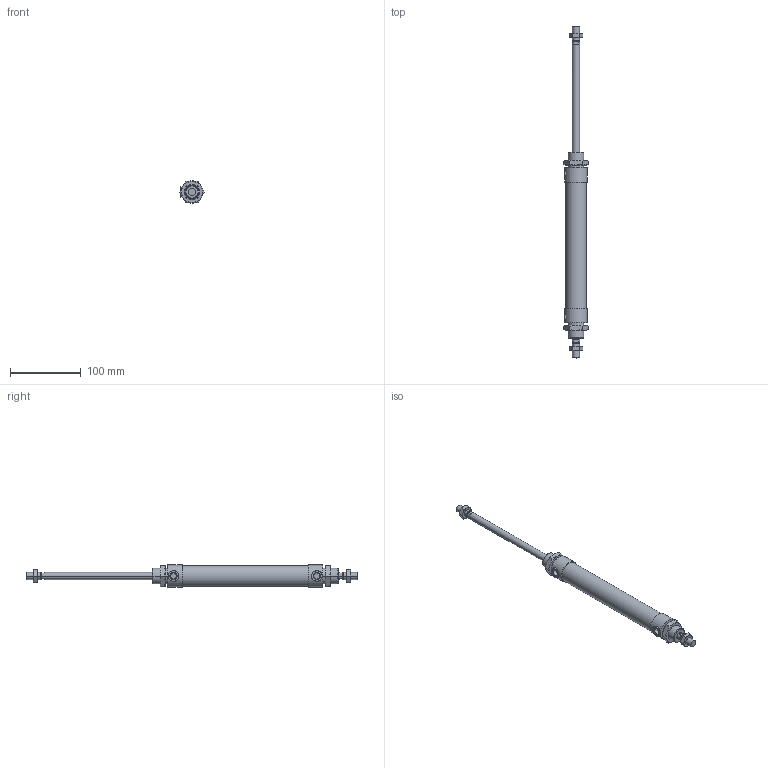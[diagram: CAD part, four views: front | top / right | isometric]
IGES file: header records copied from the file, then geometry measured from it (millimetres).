
Global section: file name: No Iges File Name specified; native system: AutoDesk Inventor R10; preprocessor: AutoDesk Inventor Iges Exporter R10; author: No Author specified; organization: No Organization specified; date: 20060105.143630; units: millimetre
Bounding box: 34.64 x 468 x 31.5 mm (x, y, z)
Volume: 188873.3 mm3; surface area: 54130 mm2
Topology: 6 solids, 6 shells, 185 faces, 397 edges, 232 vertices
Faces by surface type: cone 68, plane 62, cylinder 21, bspline 20, revolution 14
Full cylindrical faces by diameter (mm): 29 x1, 31.5 x2
